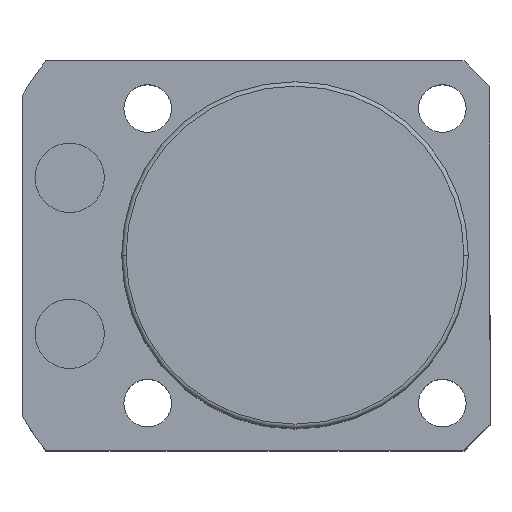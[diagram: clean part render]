
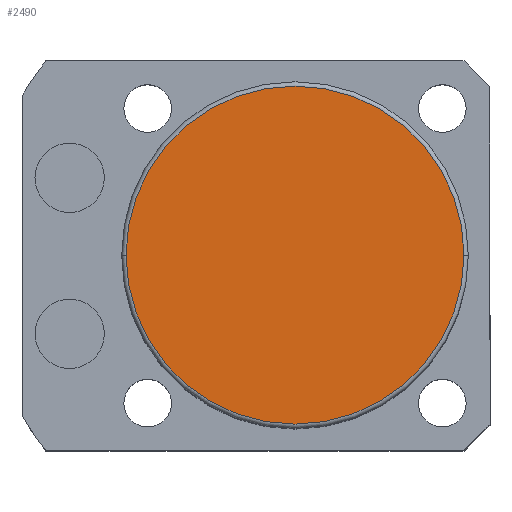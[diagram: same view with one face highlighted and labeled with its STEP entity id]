
A CAD part, top view. The second image highlights one B-rep face of the part: STEP entity #2490.
In plain terms, the highlighted planar face has unit normal (0, 0, 1).
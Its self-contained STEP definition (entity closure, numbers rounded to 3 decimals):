
#149 = CIRCLE ( 'NONE', #1948, 19.5 ) ;
#250 = VERTEX_POINT ( 'NONE', #1057 ) ;
#499 = DIRECTION ( 'NONE',  ( 1., 0., 0. ) ) ;
#514 = EDGE_LOOP ( 'NONE', ( #2684, #1105 ) ) ;
#541 = CARTESIAN_POINT ( 'NONE',  ( 19.5, 0., 58.5 ) ) ;
#593 = CARTESIAN_POINT ( 'NONE',  ( 0., 0., 58.5 ) ) ;
#828 = PLANE ( 'NONE',  #2555 ) ;
#1057 = CARTESIAN_POINT ( 'NONE',  ( -19.5, 0., 58.5 ) ) ;
#1105 = ORIENTED_EDGE ( 'NONE', *, *, #1548, .T. ) ;
#1200 = DIRECTION ( 'NONE',  ( 0., 0., 1. ) ) ;
#1237 = DIRECTION ( 'NONE',  ( 1., 0., 0. ) ) ;
#1485 = VERTEX_POINT ( 'NONE', #541 ) ;
#1534 = DIRECTION ( 'NONE',  ( 0., 0., 1. ) ) ;
#1548 = EDGE_CURVE ( 'NONE', #250, #1485, #149, .T. ) ;
#1766 = CARTESIAN_POINT ( 'NONE',  ( 0., 0., 58.5 ) ) ;
#1948 = AXIS2_PLACEMENT_3D ( 'NONE', #593, #1200, #2680 ) ;
#1980 = EDGE_CURVE ( 'NONE', #1485, #250, #2619, .T. ) ;
#2176 = FACE_OUTER_BOUND ( 'NONE', #514, .T. ) ;
#2281 = CARTESIAN_POINT ( 'NONE',  ( 0., 0., 58.5 ) ) ;
#2425 = AXIS2_PLACEMENT_3D ( 'NONE', #1766, #1534, #499 ) ;
#2490 = ADVANCED_FACE ( 'NONE', ( #2176 ), #828, .T. ) ;
#2555 = AXIS2_PLACEMENT_3D ( 'NONE', #2281, #2685, #1237 ) ;
#2619 = CIRCLE ( 'NONE', #2425, 19.5 ) ;
#2680 = DIRECTION ( 'NONE',  ( 1., 0., 0. ) ) ;
#2684 = ORIENTED_EDGE ( 'NONE', *, *, #1980, .T. ) ;
#2685 = DIRECTION ( 'NONE',  ( 0., 0., 1. ) ) ;
